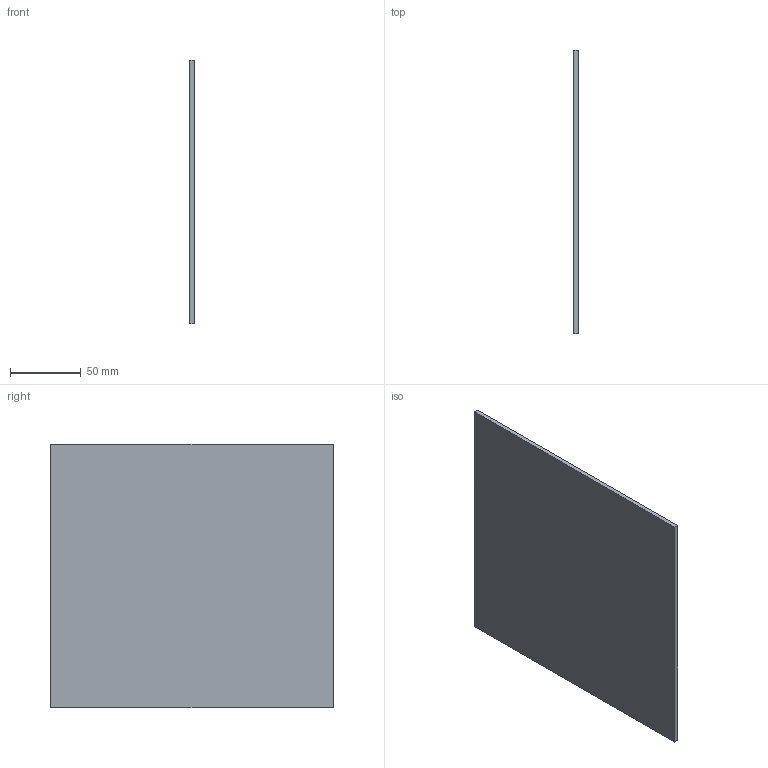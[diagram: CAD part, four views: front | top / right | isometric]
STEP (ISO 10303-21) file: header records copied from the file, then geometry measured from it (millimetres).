
FILE_DESCRIPTION(('Open CASCADE Model'),'2;1');
FILE_NAME('Open CASCADE Shape Model','2026-10-16T18:52:00',('Author'),( 'Open CASCADE'),'Open CASCADE STEP processor 7.8','Open CASCADE 7.8' ,'Unknown');
FILE_SCHEMA(('AUTOMOTIVE_DESIGN { 1 0 10303 214 1 1 1 1 }'));
Length unit declared in the file: millimetre
Products named in the file (1): Open CASCADE STEP translator 7.8 18
Bounding box: 3 x 200 x 186 mm (x, y, z)
Volume: 111600 mm3; surface area: 76716 mm2
Topology: 1 solids, 1 shells, 6 faces, 12 edges, 8 vertices
Faces by surface type: plane 6
Entity records: 322 total; most frequent: CARTESIAN_POINT 51, DIRECTION 50, LINE 36, VECTOR 36, ORIENTED_EDGE 24, PCURVE 24, DEFINITIONAL_REPRESENTATION 24, EDGE_CURVE 12
